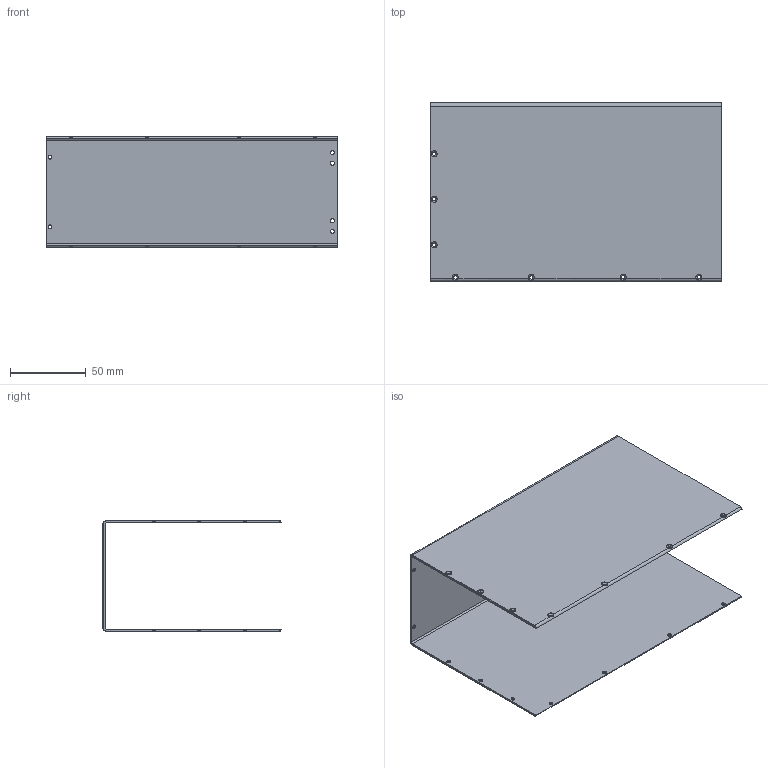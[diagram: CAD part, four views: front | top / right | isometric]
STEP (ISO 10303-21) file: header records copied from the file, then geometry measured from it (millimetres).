
FILE_DESCRIPTION (( 'STEP AP203' ), '1' );
FILE_NAME ('干扰枪-电池盒2-.STEP', '2026-09-24T09:24:30', ( '' ), ( '' ), 'SwSTEP 2.0', 'SolidWorks 2016', '' );
FILE_SCHEMA (( 'CONFIG_CONTROL_DESIGN' ));
Length unit declared in the file: millimetre
Products named in the file (1): 干扰枪-电池盒2-
Bounding box: 192 x 117.5 x 73 mm (x, y, z)
Volume: 86935.9 mm3; surface area: 117756.7 mm2
Topology: 1 solids, 1 shells, 149 faces, 363 edges, 208 vertices
Faces by surface type: cylinder 86, cone 44, plane 19
Entity records: 4610 total; most frequent: CARTESIAN_POINT 877, DIRECTION 831, ORIENTED_EDGE 726, EDGE_CURVE 363, AXIS2_PLACEMENT_3D 330, VERTEX_POINT 208, EDGE_LOOP 181, CIRCLE 180
